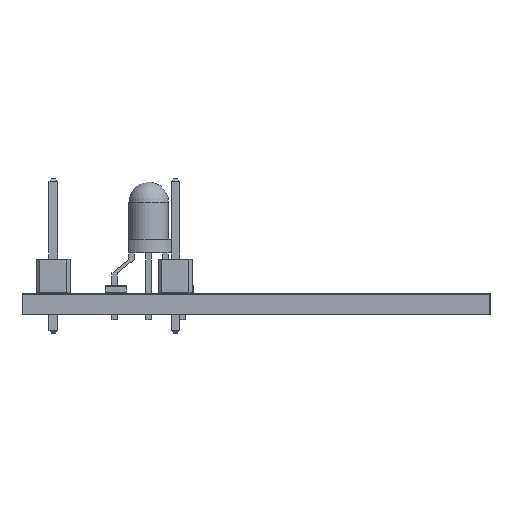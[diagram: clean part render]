
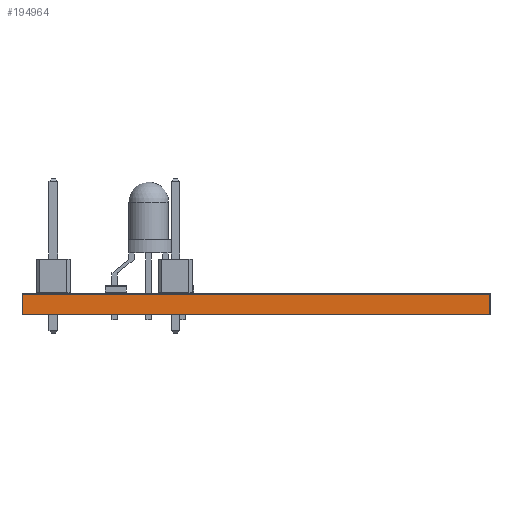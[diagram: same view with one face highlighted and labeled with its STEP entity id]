
A CAD part, left-side view. The second image highlights one B-rep face of the part: STEP entity #194964.
In plain terms, the highlighted planar face has unit normal (-1, 0, 0).
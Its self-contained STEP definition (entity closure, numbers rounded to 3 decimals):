
#194908 = VERTEX_POINT('',#194909);
#194909 = CARTESIAN_POINT('',(162.84,-96.94,1.51));
#194915 = EDGE_CURVE('',#194916,#194908,#194918,.T.);
#194916 = VERTEX_POINT('',#194917);
#194917 = CARTESIAN_POINT('',(162.84,-96.94,0.));
#194918 = LINE('',#194919,#194920);
#194919 = CARTESIAN_POINT('',(162.84,-96.94,0.));
#194920 = VECTOR('',#194921,1.);
#194921 = DIRECTION('',(0.,0.,1.));
#194964 = ADVANCED_FACE('',(#194965),#194990,.T.);
#194965 = FACE_BOUND('',#194966,.T.);
#194966 = EDGE_LOOP('',(#194967,#194968,#194976,#194984));
#194967 = ORIENTED_EDGE('',*,*,#194915,.T.);
#194968 = ORIENTED_EDGE('',*,*,#194969,.T.);
#194969 = EDGE_CURVE('',#194908,#194970,#194972,.T.);
#194970 = VERTEX_POINT('',#194971);
#194971 = CARTESIAN_POINT('',(162.84,-61.89,1.51));
#194972 = LINE('',#194973,#194974);
#194973 = CARTESIAN_POINT('',(162.84,-96.94,1.51));
#194974 = VECTOR('',#194975,1.);
#194975 = DIRECTION('',(0.,1.,0.));
#194976 = ORIENTED_EDGE('',*,*,#194977,.F.);
#194977 = EDGE_CURVE('',#194978,#194970,#194980,.T.);
#194978 = VERTEX_POINT('',#194979);
#194979 = CARTESIAN_POINT('',(162.84,-61.89,0.));
#194980 = LINE('',#194981,#194982);
#194981 = CARTESIAN_POINT('',(162.84,-61.89,0.));
#194982 = VECTOR('',#194983,1.);
#194983 = DIRECTION('',(0.,0.,1.));
#194984 = ORIENTED_EDGE('',*,*,#194985,.F.);
#194985 = EDGE_CURVE('',#194916,#194978,#194986,.T.);
#194986 = LINE('',#194987,#194988);
#194987 = CARTESIAN_POINT('',(162.84,-96.94,0.));
#194988 = VECTOR('',#194989,1.);
#194989 = DIRECTION('',(0.,1.,0.));
#194990 = PLANE('',#194991);
#194991 = AXIS2_PLACEMENT_3D('',#194992,#194993,#194994);
#194992 = CARTESIAN_POINT('',(162.84,-96.94,0.));
#194993 = DIRECTION('',(-1.,0.,0.));
#194994 = DIRECTION('',(0.,1.,0.));
